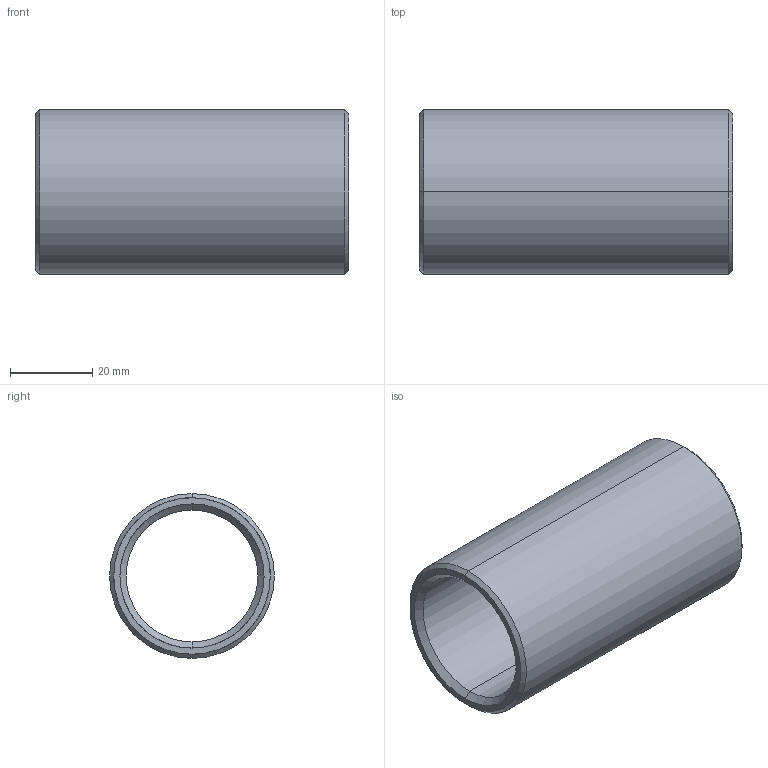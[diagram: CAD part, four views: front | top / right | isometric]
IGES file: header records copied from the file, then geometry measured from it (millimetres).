
Start section: START RECORD GO HERE.
Global section: file name: 352-32X76.igs; native system: DASSAULT SYSTEMES CATIA V5 R20 - www.3ds.com; preprocessor: CATIA Version 5 Release 20 ; author: Utente; organization: NB04-ASUS; date: 20210414.170004; units: millimetre
Bounding box: 76 x 40 x 40 mm (x, y, z)
Surface area: 17817.6 mm2 (no closed solid volume)
Topology: 0 solids, 0 shells, 14 faces, 88 edges, 88 vertices
Faces by surface type: revolution 12, plane 2
